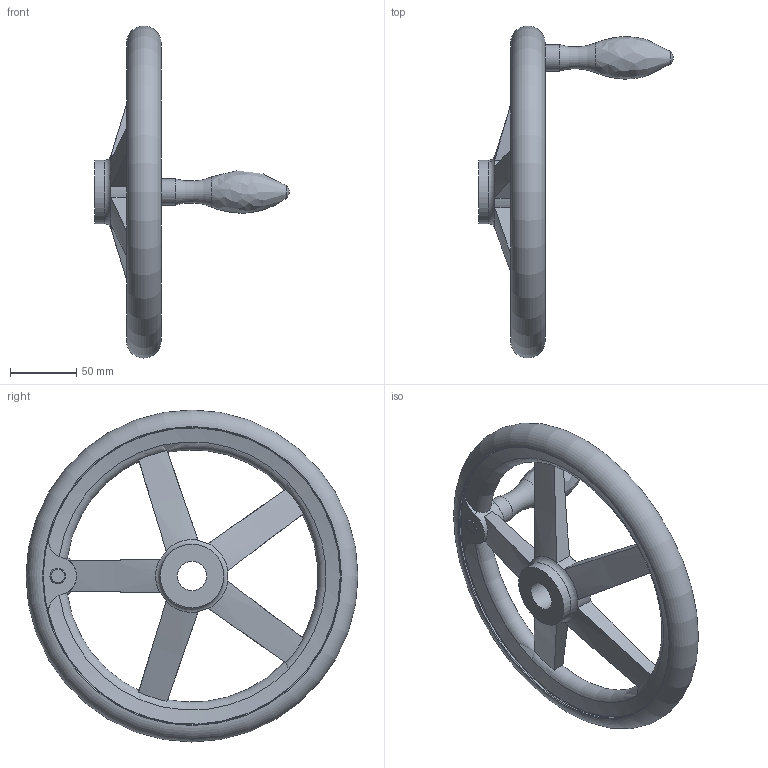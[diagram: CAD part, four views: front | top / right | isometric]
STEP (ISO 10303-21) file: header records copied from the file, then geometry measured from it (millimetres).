
FILE_DESCRIPTION( ( 'STEP AP203' ), '1' );
FILE_NAME( 'C:/Temp/Ganter_Step_05_03_2020/data/1_3/din_950/din_950_b/din_950_b_f/Handwheel DIN 950-AL-250-B22-F.stp', '2020-03-05T10:30:18', ( 'License CC BY-ND 4.0' ), ( 'CADENAS' ), ' ', 'PARTsolutions', ' ' );
FILE_SCHEMA( ( 'CONFIG_CONTROL_DESIGN' ) );
Length unit declared in the file: millimetre
Products named in the file (1): _Handwheel DIN 950-AL-250-B22-F
Bounding box: 146.5 x 250 x 250 mm (x, y, z)
Volume: 560557.1 mm3; surface area: 101924.6 mm2
Topology: 1 solids, 1 shells, 56 faces, 162 edges, 104 vertices
Faces by surface type: cylinder 17, plane 15, torus 13, cone 9, bspline 1, sphere 1
Full cylindrical faces by diameter (mm): 12 x1, 19.8 x1, 22 x1, 48 x2, 224 x2
Entity records: 2275 total; most frequent: CARTESIAN_POINT 921, ORIENTED_EDGE 274, DIRECTION 246, EDGE_CURVE 137, AXIS2_PLACEMENT_3D 115, VERTEX_POINT 100, EDGE_LOOP 83, FACE_OUTER_BOUND 72
